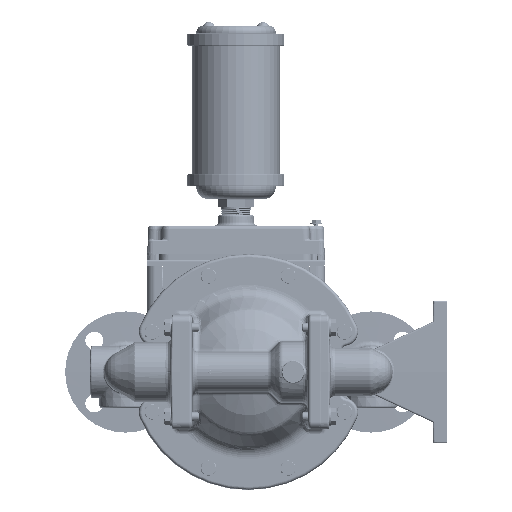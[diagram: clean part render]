
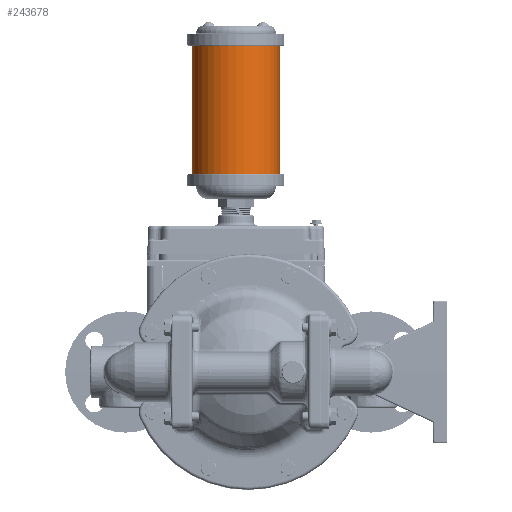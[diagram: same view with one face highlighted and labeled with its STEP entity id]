
A CAD part, left-side view. The second image highlights one B-rep face of the part: STEP entity #243678.
In plain terms, the highlighted cylindrical face has radius 39.243 mm (diameter 78.486 mm), a partial arc.
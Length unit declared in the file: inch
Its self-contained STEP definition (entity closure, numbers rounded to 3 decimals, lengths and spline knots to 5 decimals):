
#58885=DIRECTION('',(0.,0.,1.));
#58886=VECTOR('',#58885,4.479);
#58887=CARTESIAN_POINT('',(0.,1.98,6.951));
#58888=LINE('',#58887,#58886);
#58889=DIRECTION('',(0.,0.,1.));
#58890=VECTOR('',#58889,4.479);
#58891=CARTESIAN_POINT('',(0.,-1.11,6.951));
#58892=LINE('',#58891,#58890);
#58893=CARTESIAN_POINT('',(0.,0.435,6.951));
#58894=DIRECTION('',(0.,0.,1.));
#58895=DIRECTION('',(0.,1.,0.));
#58896=AXIS2_PLACEMENT_3D('',#58893,#58894,#58895);
#58918=CARTESIAN_POINT('',(0.,0.435,11.43));
#58919=DIRECTION('',(0.,0.,1.));
#58920=DIRECTION('',(0.,1.,0.));
#58921=AXIS2_PLACEMENT_3D('',#58918,#58919,#58920);
#129930=CARTESIAN_POINT('',(0.,1.98,6.951));
#129931=CARTESIAN_POINT('',(0.,1.98,11.43));
#129932=VERTEX_POINT('',#129930);
#129933=VERTEX_POINT('',#129931);
#129934=CARTESIAN_POINT('',(0.,-1.11,6.951));
#129935=CARTESIAN_POINT('',(0.,-1.11,11.43));
#129936=VERTEX_POINT('',#129934);
#129937=VERTEX_POINT('',#129935);
#243664=CARTESIAN_POINT('',(0.,0.435,12.455));
#243665=DIRECTION('',(0.,0.,-1.));
#243666=DIRECTION('',(0.,-1.,0.));
#243667=AXIS2_PLACEMENT_3D('',#243664,#243665,#243666);
#243668=CYLINDRICAL_SURFACE('',#243667,1.545);
#243670=ORIENTED_EDGE('',*,*,#243669,.T.);
#243672=ORIENTED_EDGE('',*,*,#243671,.T.);
#243674=ORIENTED_EDGE('',*,*,#243673,.F.);
#243675=ORIENTED_EDGE('',*,*,#243645,.F.);
#243676=EDGE_LOOP('',(#243670,#243672,#243674,#243675));
#243677=FACE_OUTER_BOUND('',#243676,.F.);
#243678=ADVANCED_FACE('',(#243677),#243668,.T.);
#58897=CIRCLE('',#58896,1.545);
#58922=CIRCLE('',#58921,1.545);
#243645=EDGE_CURVE('',#129932,#129936,#58897,.T.);
#243669=EDGE_CURVE('',#129932,#129933,#58888,.T.);
#243671=EDGE_CURVE('',#129933,#129937,#58922,.T.);
#243673=EDGE_CURVE('',#129936,#129937,#58892,.T.);
